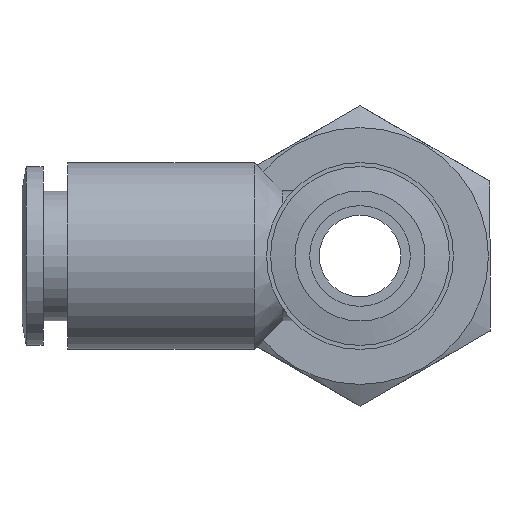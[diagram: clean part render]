
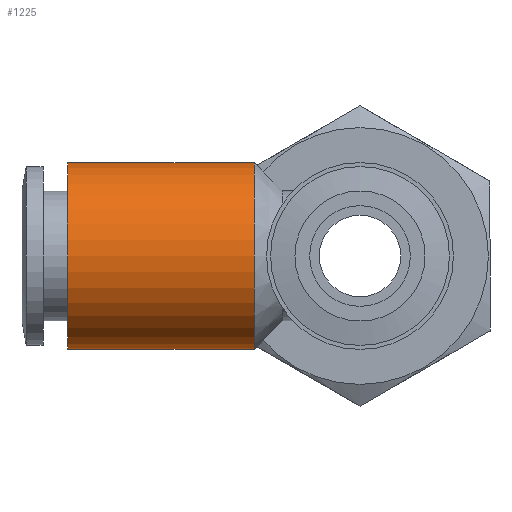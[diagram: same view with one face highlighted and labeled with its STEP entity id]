
A CAD part, left-side view. The second image highlights one B-rep face of the part: STEP entity #1225.
In plain terms, the highlighted cylindrical face has radius 5.75 mm (diameter 11.5 mm), a full revolution.
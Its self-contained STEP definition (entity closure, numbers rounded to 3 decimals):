
#1191=CARTESIAN_POINT('',(-5.75,6.5,0.0));
#1192=VERTEX_POINT('',#1191);
#1193=CARTESIAN_POINT('',(0.0,6.5,0.0));
#1194=DIRECTION('',(0.0,1.0,0.0));
#1195=DIRECTION('',(-1.0,0.0,0.0));
#1196=AXIS2_PLACEMENT_3D('',#1193,#1194,#1195);
#1197=CIRCLE('',#1196,5.75);
#1198=EDGE_CURVE('',#1192,#1192,#1197,.T.);
#1206=CARTESIAN_POINT('',(0.0,12.25,0.0));
#1207=DIRECTION('',(0.0,1.0,0.0));
#1208=DIRECTION('',(-1.0,0.0,0.0));
#1209=AXIS2_PLACEMENT_3D('',#1206,#1207,#1208);
#1210=CYLINDRICAL_SURFACE('',#1209,5.75);
#1211=CARTESIAN_POINT('',(-5.75,18.0,0.0));
#1212=VERTEX_POINT('',#1211);
#1213=CARTESIAN_POINT('',(0.0,18.0,0.0));
#1214=DIRECTION('',(0.0,1.0,0.0));
#1215=DIRECTION('',(-1.0,0.0,0.0));
#1216=AXIS2_PLACEMENT_3D('',#1213,#1214,#1215);
#1217=CIRCLE('',#1216,5.75);
#1218=EDGE_CURVE('',#1212,#1212,#1217,.T.);
#1219=ORIENTED_EDGE('',*,*,#1218,.F.);
#1220=EDGE_LOOP('',(#1219));
#1221=FACE_OUTER_BOUND('',#1220,.T.);
#1222=ORIENTED_EDGE('',*,*,#1198,.T.);
#1223=EDGE_LOOP('',(#1222));
#1224=FACE_BOUND('',#1223,.T.);
#1225=ADVANCED_FACE('',(#1221,#1224),#1210,.T.);
